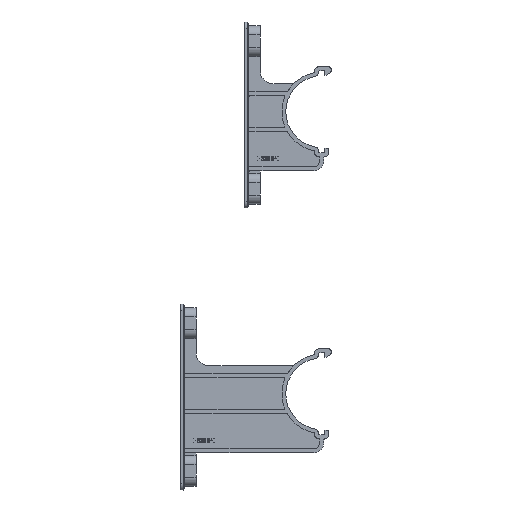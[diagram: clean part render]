
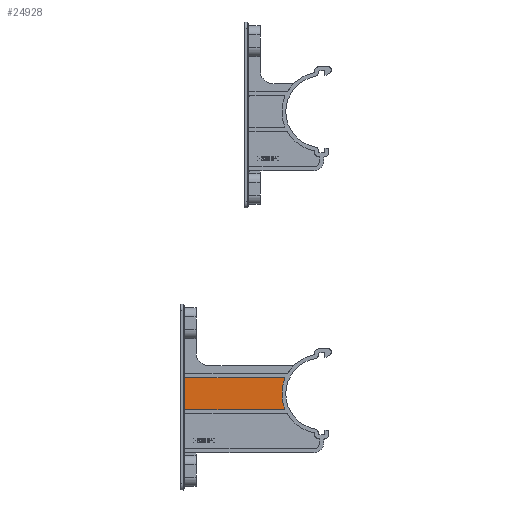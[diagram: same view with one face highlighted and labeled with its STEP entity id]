
A CAD part, left-side view. The second image highlights one B-rep face of the part: STEP entity #24928.
In plain terms, the highlighted planar face has unit normal (-1, 0, 0).
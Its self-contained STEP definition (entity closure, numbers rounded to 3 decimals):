
#719 = ORIENTED_EDGE ( 'NONE', *, *, #8151, .T. ) ;
#729 = CARTESIAN_POINT ( 'NONE',  ( 203.408, -2454.699, 85.558 ) ) ;
#1047 = CIRCLE ( 'NONE', #40949, 1. ) ;
#1138 = ORIENTED_EDGE ( 'NONE', *, *, #10258, .F. ) ;
#1714 = ORIENTED_EDGE ( 'NONE', *, *, #28320, .T. ) ;
#1951 = DIRECTION ( 'NONE',  ( 0., 0., -1. ) ) ;
#3452 = VECTOR ( 'NONE', #20512, 1000. ) ;
#3539 = DIRECTION ( 'NONE',  ( 0., 0., -1. ) ) ;
#6039 = ORIENTED_EDGE ( 'NONE', *, *, #41086, .T. ) ;
#6073 = DIRECTION ( 'NONE',  ( -1., 0., 0. ) ) ;
#6363 = CIRCLE ( 'NONE', #33980, 1. ) ;
#7449 = CARTESIAN_POINT ( 'NONE',  ( 203.408, -2453.766, 61.917 ) ) ;
#7699 = ORIENTED_EDGE ( 'NONE', *, *, #32668, .T. ) ;
#8151 = EDGE_CURVE ( 'NONE', #31114, #41601, #1047, .T. ) ;
#8317 = VERTEX_POINT ( 'NONE', #20495 ) ;
#9268 = DIRECTION ( 'NONE',  ( 0., 0., -1. ) ) ;
#9445 = CARTESIAN_POINT ( 'NONE',  ( 203.408, -2376.628, 62.917 ) ) ;
#9975 = CIRCLE ( 'NONE', #26755, 1. ) ;
#10155 = LINE ( 'NONE', #33619, #3452 ) ;
#10258 = EDGE_CURVE ( 'NONE', #23797, #8317, #28127, .T. ) ;
#11569 = DIRECTION ( 'NONE',  ( 1., 0., 0. ) ) ;
#12560 = CARTESIAN_POINT ( 'NONE',  ( 203.408, -2454.699, 63.276 ) ) ;
#12694 = VECTOR ( 'NONE', #35390, 1000. ) ;
#12697 = DIRECTION ( 'NONE',  ( -1., 0., 0. ) ) ;
#14621 = CIRCLE ( 'NONE', #32028, 31. ) ;
#15445 = EDGE_LOOP ( 'NONE', ( #38634, #7699, #719, #35619, #6039, #1138, #1714, #17073 ) ) ;
#16216 = CARTESIAN_POINT ( 'NONE',  ( 203.408, -2377.628, 86.917 ) ) ;
#16348 = LINE ( 'NONE', #17452, #43806 ) ;
#16502 = PLANE ( 'NONE',  #24482 ) ;
#16562 = CARTESIAN_POINT ( 'NONE',  ( 203.408, -2377.628, 61.917 ) ) ;
#17073 = ORIENTED_EDGE ( 'NONE', *, *, #25419, .T. ) ;
#17452 = CARTESIAN_POINT ( 'NONE',  ( 203.408, -2453.766, 86.917 ) ) ;
#17674 = DIRECTION ( 'NONE',  ( 0., 1., 0. ) ) ;
#20495 = CARTESIAN_POINT ( 'NONE',  ( 203.408, -2376.628, 85.917 ) ) ;
#20512 = DIRECTION ( 'NONE',  ( 0., -1., 0. ) ) ;
#20528 = CARTESIAN_POINT ( 'NONE',  ( 203.408, -2377.628, 85.917 ) ) ;
#20726 = AXIS2_PLACEMENT_3D ( 'NONE', #27856, #34685, #3539 ) ;
#20838 = FACE_OUTER_BOUND ( 'NONE', #15445, .T. ) ;
#21601 = CARTESIAN_POINT ( 'NONE',  ( 203.408, -2376.628, -0.583 ) ) ;
#22153 = DIRECTION ( 'NONE',  ( 0., 0., 1. ) ) ;
#22216 = EDGE_CURVE ( 'NONE', #41601, #28459, #16348, .T. ) ;
#23797 = VERTEX_POINT ( 'NONE', #9445 ) ;
#24482 = AXIS2_PLACEMENT_3D ( 'NONE', #35098, #41942, #22153 ) ;
#24928 = ADVANCED_FACE ( 'NONE', ( #20838 ), #16502, .T. ) ;
#25165 = CARTESIAN_POINT ( 'NONE',  ( 203.408, -2453.766, 62.917 ) ) ;
#25419 = EDGE_CURVE ( 'NONE', #28921, #32989, #10155, .T. ) ;
#25506 = DIRECTION ( 'NONE',  ( 0., 0., -1. ) ) ;
#26074 = EDGE_CURVE ( 'NONE', #32989, #44501, #9975, .T. ) ;
#26477 = CIRCLE ( 'NONE', #20726, 1. ) ;
#26755 = AXIS2_PLACEMENT_3D ( 'NONE', #25165, #39008, #1951 ) ;
#27856 = CARTESIAN_POINT ( 'NONE',  ( 203.408, -2377.628, 62.917 ) ) ;
#28127 = LINE ( 'NONE', #21601, #12694 ) ;
#28320 = EDGE_CURVE ( 'NONE', #23797, #28921, #26477, .T. ) ;
#28459 = VERTEX_POINT ( 'NONE', #16216 ) ;
#28921 = VERTEX_POINT ( 'NONE', #16562 ) ;
#31114 = VERTEX_POINT ( 'NONE', #729 ) ;
#32028 = AXIS2_PLACEMENT_3D ( 'NONE', #32277, #11569, #25506 ) ;
#32277 = CARTESIAN_POINT ( 'NONE',  ( 203.408, -2483.628, 74.417 ) ) ;
#32668 = EDGE_CURVE ( 'NONE', #44501, #31114, #14621, .T. ) ;
#32989 = VERTEX_POINT ( 'NONE', #7449 ) ;
#33619 = CARTESIAN_POINT ( 'NONE',  ( 203.408, -2377.628, 61.917 ) ) ;
#33980 = AXIS2_PLACEMENT_3D ( 'NONE', #20528, #12697, #9268 ) ;
#34685 = DIRECTION ( 'NONE',  ( -1., 0., 0. ) ) ;
#35098 = CARTESIAN_POINT ( 'NONE',  ( 203.408, -2376.628, 85.917 ) ) ;
#35390 = DIRECTION ( 'NONE',  ( 0., 0., 1. ) ) ;
#35619 = ORIENTED_EDGE ( 'NONE', *, *, #22216, .T. ) ;
#37470 = DIRECTION ( 'NONE',  ( 0., 0., -1. ) ) ;
#38634 = ORIENTED_EDGE ( 'NONE', *, *, #26074, .T. ) ;
#39008 = DIRECTION ( 'NONE',  ( -1., 0., 0. ) ) ;
#39464 = CARTESIAN_POINT ( 'NONE',  ( 203.408, -2453.766, 86.917 ) ) ;
#40450 = CARTESIAN_POINT ( 'NONE',  ( 203.408, -2453.766, 85.917 ) ) ;
#40949 = AXIS2_PLACEMENT_3D ( 'NONE', #40450, #6073, #37470 ) ;
#41086 = EDGE_CURVE ( 'NONE', #28459, #8317, #6363, .T. ) ;
#41601 = VERTEX_POINT ( 'NONE', #39464 ) ;
#41942 = DIRECTION ( 'NONE',  ( -1., 0., 0. ) ) ;
#43806 = VECTOR ( 'NONE', #17674, 1000. ) ;
#44501 = VERTEX_POINT ( 'NONE', #12560 ) ;
